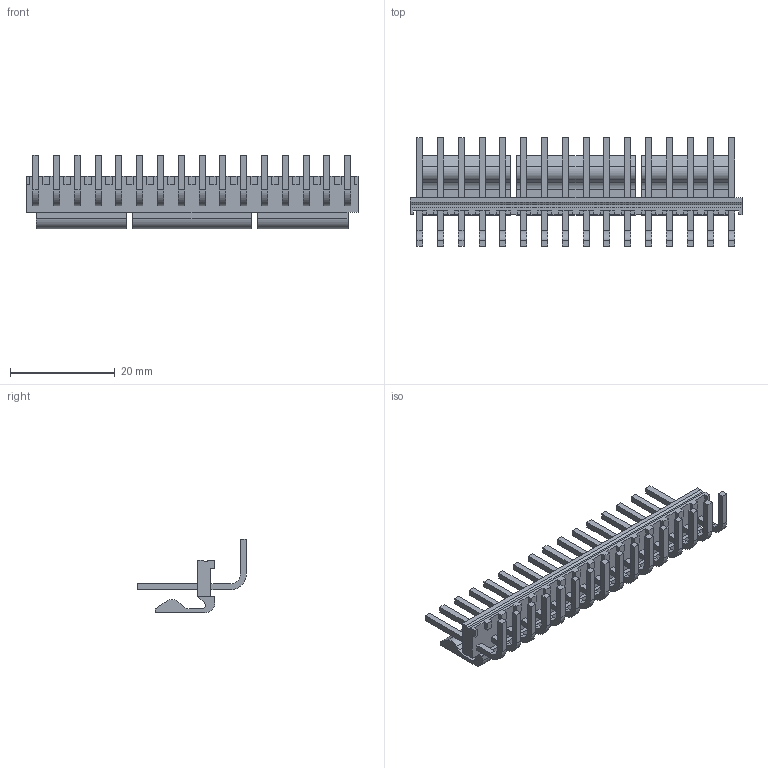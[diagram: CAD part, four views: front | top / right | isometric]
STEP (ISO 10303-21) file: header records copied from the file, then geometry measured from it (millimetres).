
FILE_DESCRIPTION((''),'2;1');
FILE_NAME('417920525','2015-04-21T',('me'),(''),'PRO/ENGINEER BY PARAMETRIC TECHNOLOGY CORPORATION, 2011490','PRO/ENGINEER BY PARAMETRIC TECHNOLOGY CORPORATION, 2011490','');
FILE_SCHEMA(('CONFIG_CONTROL_DESIGN'));
Length unit declared in the file: inch
Products named in the file (1): 417920525
Bounding box: 63.25 x 20.71 x 13.97 mm (x, y, z)
Volume: 2752.3 mm3; surface area: 4775.7 mm2
Topology: 1 solids, 1 shells, 345 faces, 953 edges, 642 vertices
Faces by surface type: plane 301, cylinder 44
Entity records: 10876 total; most frequent: CARTESIAN_POINT 1909, ORIENTED_EDGE 1842, DIRECTION 1765, EDGE_CURVE 921, VECTOR 833, LINE 833, VERTEX_POINT 610, AXIS2_PLACEMENT_3D 466
